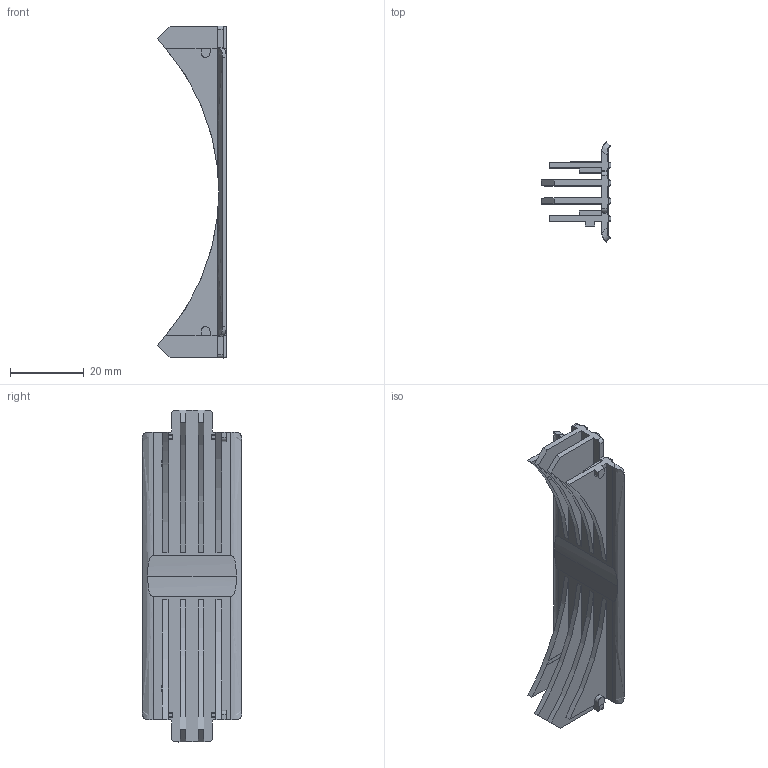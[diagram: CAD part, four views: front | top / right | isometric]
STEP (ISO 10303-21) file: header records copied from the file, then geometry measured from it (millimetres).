
FILE_DESCRIPTION (( 'STEP AP203' ), '1' );
FILE_NAME ('120.STEP', '2025-02-24T02:13:17', ( '' ), ( '' ), 'SwSTEP 2.0', 'SolidWorks 2020', '' );
FILE_SCHEMA (( 'CONFIG_CONTROL_DESIGN' ));
Length unit declared in the file: millimetre
Products named in the file (1): 120
Bounding box: 18.88 x 27 x 90 mm (x, y, z)
Volume: 6399 mm3; surface area: 8744.2 mm2
Topology: 1 solids, 1 shells, 181 faces, 522 edges, 348 vertices
Faces by surface type: plane 119, bspline 40, cylinder 22
Entity records: 8045 total; most frequent: CARTESIAN_POINT 3504, ORIENTED_EDGE 1044, DIRECTION 734, EDGE_CURVE 522, LINE 378, VECTOR 378, VERTEX_POINT 348, EDGE_LOOP 186
